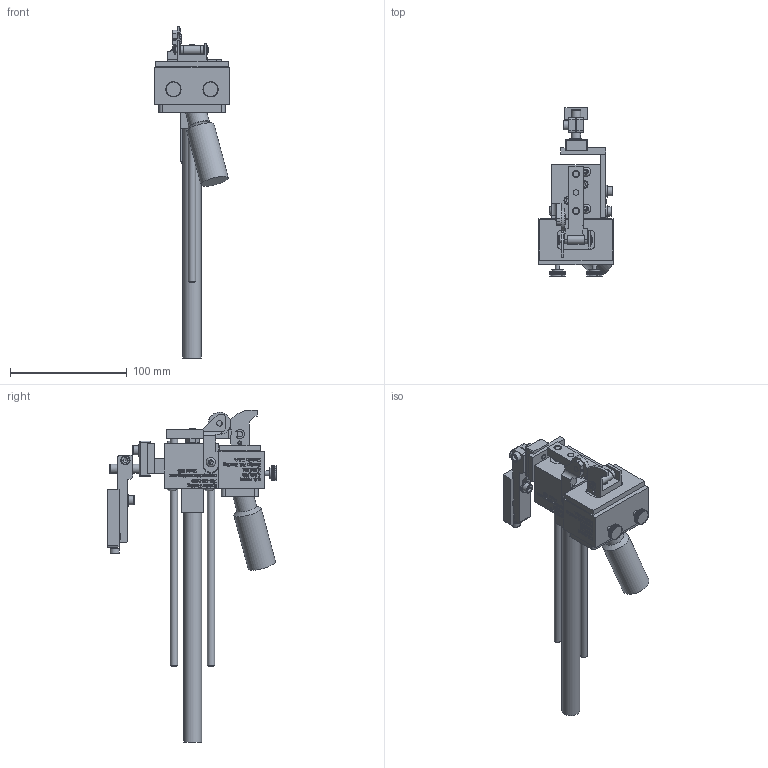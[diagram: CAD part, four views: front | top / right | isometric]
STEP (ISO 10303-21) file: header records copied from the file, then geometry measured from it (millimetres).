
FILE_DESCRIPTION((''),'2;1');
FILE_NAME('C:\Documents and Settings\Ron\My Documents\Inventor\Sprinter Drawing\Machines in Inventor\Model 816\Type\Ext Str\E4\Brkt\Ret\Model 816 ES 4 Ret w brkt.stp','2009-01-27T10:38:15',('Ron'),(''),'Autodesk Inventor 2008','Autodesk Inventor 2008','');
FILE_SCHEMA(('AUTOMOTIVE_DESIGN { 1 0 10303 214 1 1 1 1 }'));
Length unit declared in the file: inch
Products named in the file (1): Model 816  ES 4 Ret w brkt
Bounding box: 63.5 x 144.17 x 284.56 mm (x, y, z)
Volume: 294135.4 mm3; surface area: 98505 mm2
Topology: 378 solids, 378 shells, 6740 faces, 16814 edges, 10436 vertices
Faces by surface type: plane 4662, bspline 1457, cylinder 536, cone 66, torus 15, sphere 4
Full cylindrical faces by diameter (mm): 2.54 x2, 2.845 x1, 3.175 x1, 4.064 x2, 4.166 x3, 4.699 x3, 4.75 x2, 4.826 x10, 5.08 x1, 5.156 x3, 6.223 x2, 6.325 x2, 6.35 x2, 6.604 x1, 6.68 x1, 6.858 x2, 7.62 x2, 7.925 x11, 7.938 x1, 9.017 x1, 9.525 x2, 10.312 x4, 10.922 x1, 15.494 x1, 17.526 x1, 19.05 x1, 24.13 x1
Entity records: 210784 total; most frequent: CARTESIAN_POINT 58174, ORIENTED_EDGE 33000, DIRECTION 25555, EDGE_CURVE 16500, VECTOR 12257, LINE 12257, VERTEX_POINT 10329, EDGE_LOOP 7369
